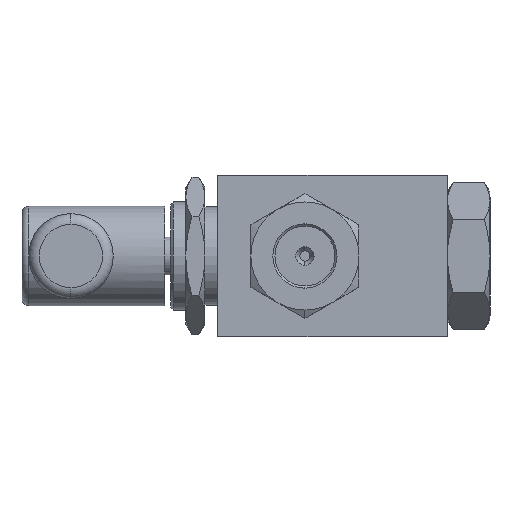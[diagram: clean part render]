
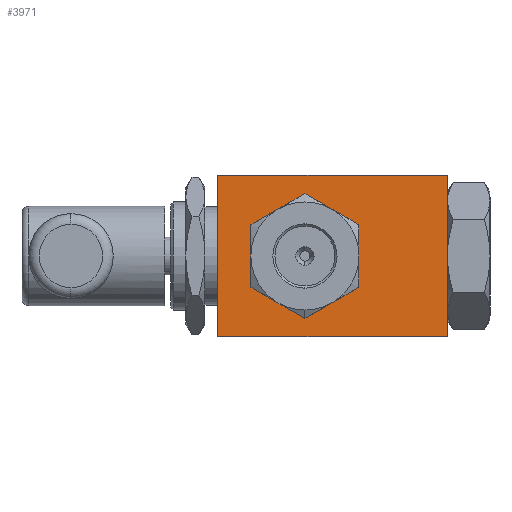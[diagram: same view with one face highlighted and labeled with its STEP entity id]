
A CAD part, left-side view. The second image highlights one B-rep face of the part: STEP entity #3971.
In plain terms, the highlighted planar face has unit normal (-1, 0, 0).
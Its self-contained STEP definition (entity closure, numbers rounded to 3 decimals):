
#15 = VERTEX_POINT ( 'NONE', #4169 ) ;
#58 = ORIENTED_EDGE ( 'NONE', *, *, #5693, .T. ) ;
#93 = EDGE_LOOP ( 'NONE', ( #1982, #759, #3074, #58, #1280, #3216, #1225 ) ) ;
#211 = AXIS2_PLACEMENT_3D ( 'NONE', #2156, #3691, #4145 ) ;
#215 = DIRECTION ( 'NONE',  ( 1., 0., 0. ) ) ;
#245 = VECTOR ( 'NONE', #2629, 1000. ) ;
#395 = PLANE ( 'NONE',  #2603 ) ;
#407 = DIRECTION ( 'NONE',  ( 0., -1., 0. ) ) ;
#425 = EDGE_CURVE ( 'NONE', #3695, #2929, #5665, .T. ) ;
#490 = ORIENTED_EDGE ( 'NONE', *, *, #4664, .T. ) ;
#514 = VERTEX_POINT ( 'NONE', #3635 ) ;
#535 = CARTESIAN_POINT ( 'NONE',  ( -33.25, 6.5, 0. ) ) ;
#636 = AXIS2_PLACEMENT_3D ( 'NONE', #5408, #1924, #1345 ) ;
#750 = VERTEX_POINT ( 'NONE', #4840 ) ;
#759 = ORIENTED_EDGE ( 'NONE', *, *, #6195, .T. ) ;
#898 = VECTOR ( 'NONE', #6418, 1000. ) ;
#929 = CARTESIAN_POINT ( 'NONE',  ( -33.25, 27., 19. ) ) ;
#973 = CARTESIAN_POINT ( 'NONE',  ( -33.25, -27., 19. ) ) ;
#1040 = EDGE_CURVE ( 'NONE', #3695, #514, #4411, .T. ) ;
#1084 = VERTEX_POINT ( 'NONE', #4346 ) ;
#1093 = DIRECTION ( 'NONE',  ( 0., 0., -1. ) ) ;
#1157 = CIRCLE ( 'NONE', #2393, 11. ) ;
#1160 = EDGE_CURVE ( 'NONE', #6081, #4138, #2520, .T. ) ;
#1225 = ORIENTED_EDGE ( 'NONE', *, *, #3647, .T. ) ;
#1280 = ORIENTED_EDGE ( 'NONE', *, *, #1994, .T. ) ;
#1345 = DIRECTION ( 'NONE',  ( 0., 0., -1. ) ) ;
#1422 = CARTESIAN_POINT ( 'NONE',  ( -33.25, -27., 19. ) ) ;
#1443 = EDGE_CURVE ( 'NONE', #750, #6151, #3688, .T. ) ;
#1560 = CARTESIAN_POINT ( 'NONE',  ( -33.25, 6.5, 0. ) ) ;
#1649 = DIRECTION ( 'NONE',  ( 0., 0., -1. ) ) ;
#1840 = LINE ( 'NONE', #3461, #3116 ) ;
#1863 = DIRECTION ( 'NONE',  ( 0., 0., -1. ) ) ;
#1890 = CARTESIAN_POINT ( 'NONE',  ( -33.25, 27., -19. ) ) ;
#1924 = DIRECTION ( 'NONE',  ( 1., 0., 0. ) ) ;
#1982 = ORIENTED_EDGE ( 'NONE', *, *, #4584, .T. ) ;
#1994 = EDGE_CURVE ( 'NONE', #3611, #750, #5634, .T. ) ;
#2022 = AXIS2_PLACEMENT_3D ( 'NONE', #1560, #4939, #3933 ) ;
#2054 = ORIENTED_EDGE ( 'NONE', *, *, #2172, .F. ) ;
#2156 = CARTESIAN_POINT ( 'NONE',  ( -33.25, 6.5, 0. ) ) ;
#2166 = CARTESIAN_POINT ( 'NONE',  ( -33.25, 27., 19. ) ) ;
#2172 = EDGE_CURVE ( 'NONE', #514, #2615, #5421, .T. ) ;
#2322 = AXIS2_PLACEMENT_3D ( 'NONE', #535, #5988, #1093 ) ;
#2346 = CARTESIAN_POINT ( 'NONE',  ( -33.25, -4.5, 0. ) ) ;
#2393 = AXIS2_PLACEMENT_3D ( 'NONE', #3294, #3392, #1863 ) ;
#2520 = CIRCLE ( 'NONE', #2322, 11. ) ;
#2603 = AXIS2_PLACEMENT_3D ( 'NONE', #3282, #5346, #2890 ) ;
#2615 = VERTEX_POINT ( 'NONE', #6416 ) ;
#2629 = DIRECTION ( 'NONE',  ( 0., 0., -1. ) ) ;
#2822 = AXIS2_PLACEMENT_3D ( 'NONE', #6130, #215, #5623 ) ;
#2890 = DIRECTION ( 'NONE',  ( 0., 0., -1. ) ) ;
#2929 = VERTEX_POINT ( 'NONE', #1890 ) ;
#2937 = DIRECTION ( 'NONE',  ( 0., 0., -1. ) ) ;
#3003 = CIRCLE ( 'NONE', #211, 11. ) ;
#3074 = ORIENTED_EDGE ( 'NONE', *, *, #1160, .T. ) ;
#3116 = VECTOR ( 'NONE', #407, 1000. ) ;
#3216 = ORIENTED_EDGE ( 'NONE', *, *, #1443, .T. ) ;
#3282 = CARTESIAN_POINT ( 'NONE',  ( -33.25, -27., 19. ) ) ;
#3294 = CARTESIAN_POINT ( 'NONE',  ( -33.25, 6.5, 0. ) ) ;
#3384 = FACE_BOUND ( 'NONE', #93, .T. ) ;
#3392 = DIRECTION ( 'NONE',  ( 1., 0., 0. ) ) ;
#3461 = CARTESIAN_POINT ( 'NONE',  ( -33.25, -27., -19. ) ) ;
#3558 = CARTESIAN_POINT ( 'NONE',  ( -33.25, 17.5, 0. ) ) ;
#3611 = VERTEX_POINT ( 'NONE', #4343 ) ;
#3635 = CARTESIAN_POINT ( 'NONE',  ( -33.25, -27., 19. ) ) ;
#3647 = EDGE_CURVE ( 'NONE', #6151, #1084, #1157, .T. ) ;
#3688 = CIRCLE ( 'NONE', #2022, 11. ) ;
#3691 = DIRECTION ( 'NONE',  ( 1., 0., 0. ) ) ;
#3695 = VERTEX_POINT ( 'NONE', #929 ) ;
#3729 = CARTESIAN_POINT ( 'NONE',  ( -33.25, 6.5, 0. ) ) ;
#3933 = DIRECTION ( 'NONE',  ( 0., 0., -1. ) ) ;
#3971 = ADVANCED_FACE ( 'NONE', ( #5888, #3384 ), #395, .F. ) ;
#4138 = VERTEX_POINT ( 'NONE', #4626 ) ;
#4145 = DIRECTION ( 'NONE',  ( 0., 0., -1. ) ) ;
#4169 = CARTESIAN_POINT ( 'NONE',  ( -33.25, 12., -9.526 ) ) ;
#4266 = CIRCLE ( 'NONE', #636, 11. ) ;
#4343 = CARTESIAN_POINT ( 'NONE',  ( -33.25, 6.5, 11. ) ) ;
#4346 = CARTESIAN_POINT ( 'NONE',  ( -33.25, 1., -9.526 ) ) ;
#4411 = LINE ( 'NONE', #1422, #898 ) ;
#4574 = AXIS2_PLACEMENT_3D ( 'NONE', #3729, #6099, #1649 ) ;
#4584 = EDGE_CURVE ( 'NONE', #1084, #15, #3003, .T. ) ;
#4626 = CARTESIAN_POINT ( 'NONE',  ( -33.25, 12., 9.526 ) ) ;
#4664 = EDGE_CURVE ( 'NONE', #2929, #2615, #1840, .T. ) ;
#4840 = CARTESIAN_POINT ( 'NONE',  ( -33.25, 1., 9.526 ) ) ;
#4939 = DIRECTION ( 'NONE',  ( 1., 0., 0. ) ) ;
#5003 = ORIENTED_EDGE ( 'NONE', *, *, #1040, .F. ) ;
#5091 = CIRCLE ( 'NONE', #4574, 11. ) ;
#5179 = EDGE_LOOP ( 'NONE', ( #490, #2054, #5003, #5524 ) ) ;
#5346 = DIRECTION ( 'NONE',  ( 1., 0., 0. ) ) ;
#5408 = CARTESIAN_POINT ( 'NONE',  ( -33.25, 6.5, 0. ) ) ;
#5421 = LINE ( 'NONE', #973, #5839 ) ;
#5524 = ORIENTED_EDGE ( 'NONE', *, *, #425, .T. ) ;
#5623 = DIRECTION ( 'NONE',  ( 0., 0., -1. ) ) ;
#5634 = CIRCLE ( 'NONE', #2822, 11. ) ;
#5665 = LINE ( 'NONE', #2166, #245 ) ;
#5693 = EDGE_CURVE ( 'NONE', #4138, #3611, #5091, .T. ) ;
#5839 = VECTOR ( 'NONE', #2937, 1000. ) ;
#5888 = FACE_OUTER_BOUND ( 'NONE', #5179, .T. ) ;
#5988 = DIRECTION ( 'NONE',  ( 1., 0., 0. ) ) ;
#6081 = VERTEX_POINT ( 'NONE', #3558 ) ;
#6099 = DIRECTION ( 'NONE',  ( 1., 0., 0. ) ) ;
#6130 = CARTESIAN_POINT ( 'NONE',  ( -33.25, 6.5, 0. ) ) ;
#6151 = VERTEX_POINT ( 'NONE', #2346 ) ;
#6195 = EDGE_CURVE ( 'NONE', #15, #6081, #4266, .T. ) ;
#6416 = CARTESIAN_POINT ( 'NONE',  ( -33.25, -27., -19. ) ) ;
#6418 = DIRECTION ( 'NONE',  ( 0., -1., 0. ) ) ;
